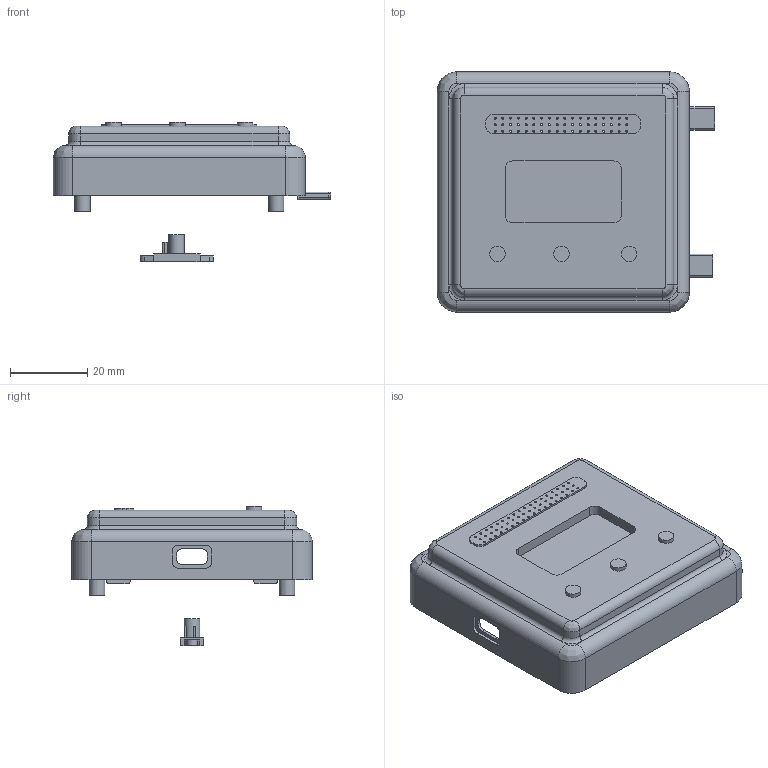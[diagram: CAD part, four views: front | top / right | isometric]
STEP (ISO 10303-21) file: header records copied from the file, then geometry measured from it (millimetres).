
FILE_DESCRIPTION(/* description */ (''),/* implementation_level */ '2;1');
FILE_NAME(/* name */ '样题9.stp',/* time_stamp */ '2021-03-16T13:03:28+08:00',/* author */ (''),/* organization */ (''),/* preprocessor_version */ 'ST-DEVELOPER v16',/* originating_system */ 'SIEMENS PLM Software NX 10.0',/* authorisation */ '');
FILE_SCHEMA (('AUTOMOTIVE_DESIGN { 1 0 10303 214 3 1 1 1 }'));
Length unit declared in the file: millimetre
Products named in the file (7): 外接件; 电气元件; 喇叭; 电路板; 屏幕; 按钮; 样题9
Assembly tree (9 placements, depth 2):
  样题9
    按钮  x3
    屏幕
    电路板
    喇叭
    电气元件
    外接件  x2
Bounding box: 71.57 x 62 x 36 mm (x, y, z)
Volume: 13644.4 mm3; surface area: 20161.6 mm2
Topology: 10 solids, 11 shells, 370 faces, 955 edges, 618 vertices
Faces by surface type: cylinder 182, plane 160, torus 20, bspline 8
Full cylindrical faces by diameter (mm): 0.5 x54, 0.589 x1, 1.5 x2, 2 x4, 4 x10, 4.003 x1
Entity records: 11416 total; most frequent: CARTESIAN_POINT 2366, DIRECTION 1893, ORIENTED_EDGE 1690, EDGE_CURVE 845, AXIS2_PLACEMENT_3D 728, VERTEX_POINT 587, EDGE_LOOP 562, LINE 437
